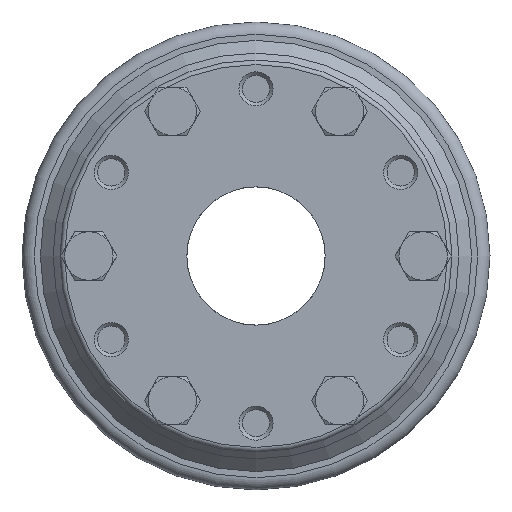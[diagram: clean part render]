
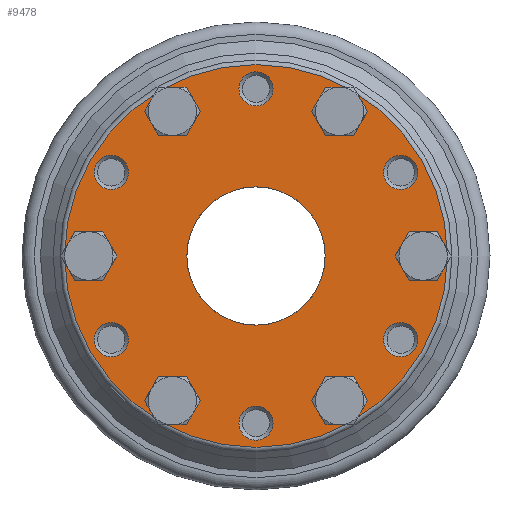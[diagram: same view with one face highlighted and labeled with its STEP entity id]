
A CAD part, left-side view. The second image highlights one B-rep face of the part: STEP entity #9478.
In plain terms, the highlighted planar face has unit normal (-1, 0, 0).
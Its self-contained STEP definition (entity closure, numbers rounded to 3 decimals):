
#855=PLANE('',#10126);
#1634=ORIENTED_EDGE('',*,*,#2941,.T.);
#1635=ORIENTED_EDGE('',*,*,#2940,.T.);
#1636=ORIENTED_EDGE('',*,*,#2939,.T.);
#1637=ORIENTED_EDGE('',*,*,#2955,.F.);
#1638=ORIENTED_EDGE('',*,*,#2938,.T.);
#1639=ORIENTED_EDGE('',*,*,#2937,.F.);
#1640=ORIENTED_EDGE('',*,*,#2935,.F.);
#1641=ORIENTED_EDGE('',*,*,#2933,.F.);
#1642=ORIENTED_EDGE('',*,*,#2931,.F.);
#1643=ORIENTED_EDGE('',*,*,#2929,.F.);
#1644=ORIENTED_EDGE('',*,*,#2927,.F.);
#1645=ORIENTED_EDGE('',*,*,#2925,.T.);
#1646=ORIENTED_EDGE('',*,*,#2924,.T.);
#1647=ORIENTED_EDGE('',*,*,#2923,.T.);
#2923=EDGE_CURVE('',#3647,#3647,#4175,.T.);
#2924=EDGE_CURVE('',#3648,#3648,#4176,.T.);
#2925=EDGE_CURVE('',#3649,#3649,#4177,.T.);
#2927=EDGE_CURVE('',#3651,#3651,#4179,.T.);
#2929=EDGE_CURVE('',#3653,#3653,#4181,.T.);
#2931=EDGE_CURVE('',#3655,#3655,#4183,.T.);
#2933=EDGE_CURVE('',#3657,#3657,#4185,.T.);
#2935=EDGE_CURVE('',#3659,#3659,#4187,.T.);
#2937=EDGE_CURVE('',#3661,#3661,#4189,.T.);
#2938=EDGE_CURVE('',#3662,#3662,#4190,.T.);
#2939=EDGE_CURVE('',#3663,#3663,#4191,.T.);
#2940=EDGE_CURVE('',#3664,#3664,#4192,.T.);
#2941=EDGE_CURVE('',#3665,#3665,#4193,.T.);
#2955=EDGE_CURVE('',#3679,#3679,#4207,.T.);
#3647=VERTEX_POINT('',#13575);
#3648=VERTEX_POINT('',#13578);
#3649=VERTEX_POINT('',#13581);
#3651=VERTEX_POINT('',#13586);
#3653=VERTEX_POINT('',#13591);
#3655=VERTEX_POINT('',#13596);
#3657=VERTEX_POINT('',#13601);
#3659=VERTEX_POINT('',#13606);
#3661=VERTEX_POINT('',#13611);
#3662=VERTEX_POINT('',#13614);
#3663=VERTEX_POINT('',#13617);
#3664=VERTEX_POINT('',#13620);
#3665=VERTEX_POINT('',#13623);
#3679=VERTEX_POINT('',#13665);
#4175=CIRCLE('',#10069,9.585);
#4176=CIRCLE('',#10071,9.585);
#4177=CIRCLE('',#10073,9.585);
#4179=CIRCLE('',#10076,7.418);
#4181=CIRCLE('',#10079,7.418);
#4183=CIRCLE('',#10082,7.418);
#4185=CIRCLE('',#10085,7.418);
#4187=CIRCLE('',#10088,7.418);
#4189=CIRCLE('',#10091,7.418);
#4190=CIRCLE('',#10093,83.);
#4191=CIRCLE('',#10095,9.585);
#4192=CIRCLE('',#10097,9.585);
#4193=CIRCLE('',#10099,9.585);
#4207=CIRCLE('',#10127,30.);
#4740=EDGE_LOOP('',(#1634));
#4741=EDGE_LOOP('',(#1635));
#4742=EDGE_LOOP('',(#1636));
#4743=EDGE_LOOP('',(#1637));
#4744=EDGE_LOOP('',(#1638));
#4745=EDGE_LOOP('',(#1639));
#4746=EDGE_LOOP('',(#1640));
#4747=EDGE_LOOP('',(#1641));
#4748=EDGE_LOOP('',(#1642));
#4749=EDGE_LOOP('',(#1643));
#4750=EDGE_LOOP('',(#1644));
#4751=EDGE_LOOP('',(#1645));
#4752=EDGE_LOOP('',(#1646));
#4753=EDGE_LOOP('',(#1647));
#5500=FACE_BOUND('',#4740,.T.);
#5501=FACE_BOUND('',#4741,.T.);
#5502=FACE_BOUND('',#4742,.T.);
#5503=FACE_BOUND('',#4743,.T.);
#5504=FACE_BOUND('',#4744,.T.);
#5505=FACE_BOUND('',#4745,.T.);
#5506=FACE_BOUND('',#4746,.T.);
#5507=FACE_BOUND('',#4747,.T.);
#5508=FACE_BOUND('',#4748,.T.);
#5509=FACE_BOUND('',#4749,.T.);
#5510=FACE_BOUND('',#4750,.T.);
#5511=FACE_BOUND('',#4751,.T.);
#5512=FACE_BOUND('',#4752,.T.);
#5513=FACE_BOUND('',#4753,.T.);
#9478=ADVANCED_FACE('',(#5500,#5501,#5502,#5503,#5504,#5505,#5506,#5507,
#5508,#5509,#5510,#5511,#5512,#5513),#855,.T.);
#10069=AXIS2_PLACEMENT_3D('',#13574,#11314,#11315);
#10071=AXIS2_PLACEMENT_3D('',#13577,#11318,#11319);
#10073=AXIS2_PLACEMENT_3D('',#13580,#11322,#11323);
#10076=AXIS2_PLACEMENT_3D('',#13585,#11328,#11329);
#10079=AXIS2_PLACEMENT_3D('',#13590,#11334,#11335);
#10082=AXIS2_PLACEMENT_3D('',#13595,#11340,#11341);
#10085=AXIS2_PLACEMENT_3D('',#13600,#11346,#11347);
#10088=AXIS2_PLACEMENT_3D('',#13605,#11352,#11353);
#10091=AXIS2_PLACEMENT_3D('',#13610,#11358,#11359);
#10093=AXIS2_PLACEMENT_3D('',#13613,#11362,#11363);
#10095=AXIS2_PLACEMENT_3D('',#13616,#11366,#11367);
#10097=AXIS2_PLACEMENT_3D('',#13619,#11370,#11371);
#10099=AXIS2_PLACEMENT_3D('',#13622,#11374,#11375);
#10126=AXIS2_PLACEMENT_3D('',#13663,#11428,#11429);
#10127=AXIS2_PLACEMENT_3D('',#13664,#11430,#11431);
#11314=DIRECTION('',(1.,0.,0.));
#11315=DIRECTION('',(0.,0.5,-0.866));
#11318=DIRECTION('',(1.,0.,0.));
#11319=DIRECTION('',(0.,0.5,0.866));
#11322=DIRECTION('',(1.,0.,0.));
#11323=DIRECTION('',(0.,-1.,0.));
#11328=DIRECTION('',(-1.,0.,0.));
#11329=DIRECTION('',(0.,0.5,-0.866));
#11334=DIRECTION('',(-1.,0.,0.));
#11335=DIRECTION('',(0.,0.5,-0.866));
#11340=DIRECTION('',(-1.,0.,0.));
#11341=DIRECTION('',(0.,0.5,-0.866));
#11346=DIRECTION('',(-1.,0.,0.));
#11347=DIRECTION('',(0.,0.5,-0.866));
#11352=DIRECTION('',(-1.,0.,0.));
#11353=DIRECTION('',(0.,0.5,-0.866));
#11358=DIRECTION('',(-1.,0.,0.));
#11359=DIRECTION('',(0.,0.5,-0.866));
#11362=DIRECTION('',(-1.,0.,0.));
#11363=DIRECTION('',(0.,0.5,-0.866));
#11366=DIRECTION('',(1.,0.,0.));
#11367=DIRECTION('',(0.,-0.5,-0.866));
#11370=DIRECTION('',(1.,0.,0.));
#11371=DIRECTION('',(0.,-0.5,0.866));
#11374=DIRECTION('',(1.,0.,0.));
#11375=DIRECTION('',(0.,1.,0.));
#11428=DIRECTION('',(-1.,0.,0.));
#11429=DIRECTION('',(0.,0.5,-0.866));
#11430=DIRECTION('',(-1.,0.,0.));
#11431=DIRECTION('',(0.,0.5,-0.866));
#13574=CARTESIAN_POINT('',(-109.334,36.25,62.787));
#13575=CARTESIAN_POINT('',(-109.334,41.043,54.486));
#13577=CARTESIAN_POINT('',(-109.334,-72.5,0.));
#13578=CARTESIAN_POINT('',(-109.334,-67.708,8.301));
#13580=CARTESIAN_POINT('',(-109.334,36.25,-62.787));
#13581=CARTESIAN_POINT('',(-109.334,26.665,-62.787));
#13585=CARTESIAN_POINT('',(-109.334,62.787,36.25));
#13586=CARTESIAN_POINT('',(-109.334,66.496,29.826));
#13590=CARTESIAN_POINT('',(-109.334,0.,72.5));
#13591=CARTESIAN_POINT('',(-109.334,3.709,66.076));
#13595=CARTESIAN_POINT('',(-109.334,-62.787,36.25));
#13596=CARTESIAN_POINT('',(-109.334,-59.078,29.826));
#13600=CARTESIAN_POINT('',(-109.334,-62.787,-36.25));
#13601=CARTESIAN_POINT('',(-109.334,-59.078,-42.674));
#13605=CARTESIAN_POINT('',(-109.334,0.,-72.5));
#13606=CARTESIAN_POINT('',(-109.334,3.709,-78.924));
#13610=CARTESIAN_POINT('',(-109.334,62.787,-36.25));
#13611=CARTESIAN_POINT('',(-109.334,66.496,-42.674));
#13613=CARTESIAN_POINT('',(-109.334,0.,0.));
#13614=CARTESIAN_POINT('',(-109.334,41.5,-71.88));
#13616=CARTESIAN_POINT('',(-109.334,72.5,0.));
#13617=CARTESIAN_POINT('',(-109.334,67.708,-8.301));
#13619=CARTESIAN_POINT('',(-109.334,-36.25,-62.787));
#13620=CARTESIAN_POINT('',(-109.334,-41.043,-54.486));
#13622=CARTESIAN_POINT('',(-109.334,-36.25,62.787));
#13623=CARTESIAN_POINT('',(-109.334,-26.665,62.787));
#13663=CARTESIAN_POINT('',(-109.334,15.,-25.981));
#13664=CARTESIAN_POINT('',(-109.334,0.,0.));
#13665=CARTESIAN_POINT('',(-109.334,15.,-25.981));
